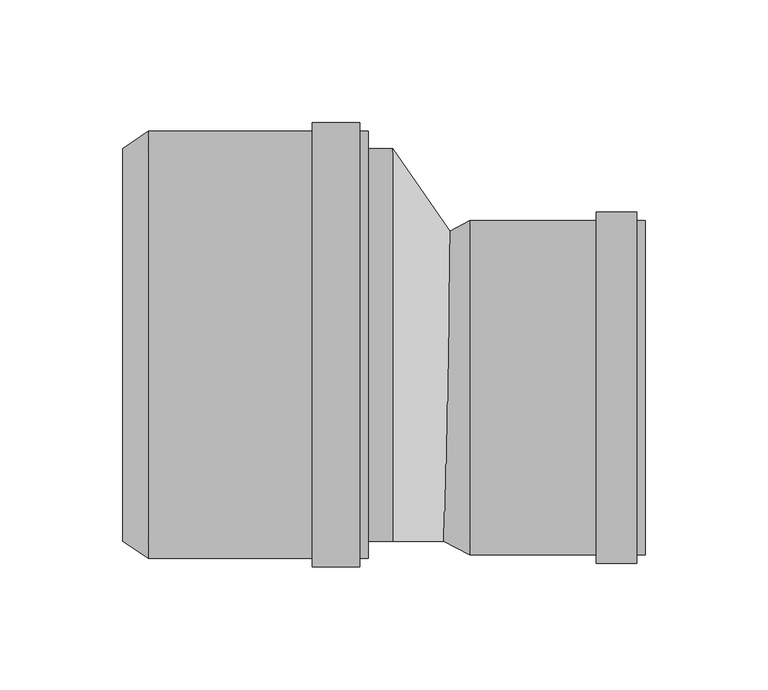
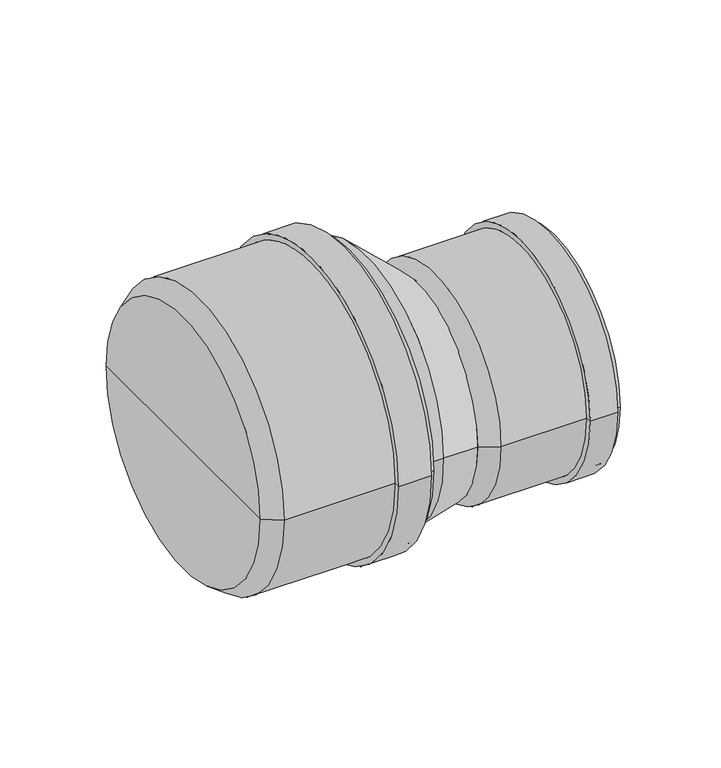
"""IFC4 building model written with IfcOpenShell, lengths in millimetres: pipe fitting geometry, pf_HTR_red-nes-dlouha : pf_HTR_red-nes-dlouha."""

from ifc_helpers import new_model, si_unit, point, frame, origin, origin_2d, place, context, project, spatial, polyline, circle_curve, trimmed, segment, composite_curve, outline, extrude, source, transform, mapped, element, save
from ifc_brep_helpers import plane_surface, cylinder_surface, revolved_surface, spline_surface, advanced_brep


def pipe_fitting_d7963361(model_context):
    return source(origin(), model_context, "Body", "SolidModel", [
        advanced_brep(
        [(-110.0, -80.0, 0.0), (-110.0, 80.0, 0.0), (-99.7, 87.1, 0.0), (-99.7, -87.1, 0.0), (-110.0, 0.0, 0.0), (-10.0, -87.1, 0.0), (-10.0, 87.1, 0.0), (-10.0, 0.0, 0.0), (-13.4, -87.1, 0.0), (-13.4, 87.1, 0.0), (-13.4, -90.5, 0.0), (-13.4, 90.5, 0.0), (-32.9, -90.5, 0.0), (-32.9, 90.5, 0.0), (-32.9, -87.1, 0.0), (-32.9, 87.1, 0.0)],
        [
            (0, 1, circle_curve(frame((-110.0, 0.0, 0.0), z_axis=(1.0, 0.0, 0.0), x_axis=(0.0, 1.0, 0.0)), 80.0)),
            (1, 2),
            (2, 3, circle_curve(frame((-99.7, 0.0, 0.0), z_axis=(-1.0, 0.0, 0.0), x_axis=(0.0, 1.0, 0.0)), 87.1)),
            (3, 0),
            (1, 0, circle_curve(frame((-110.0, 0.0, 0.0), z_axis=(1.0, 0.0, 0.0), x_axis=(0.0, 1.0, 0.0)), 80.0)),
            (3, 2, circle_curve(frame((-99.7, 0.0, 0.0), z_axis=(-1.0, 0.0, 0.0), x_axis=(0.0, 1.0, 0.0)), 87.1)),
            (4, 1),
            (0, 4),
            (5, 6, circle_curve(frame((-10.0, 0.0, 0.0), z_axis=(1.0, 0.0, 0.0), x_axis=(0.0, 1.0, 0.0)), 87.1)),
            (6, 7),
            (7, 5),
            (6, 5, circle_curve(frame((-10.0, 0.0, 0.0), z_axis=(1.0, 0.0, 0.0), x_axis=(0.0, 1.0, 0.0)), 87.1)),
            (8, 9, circle_curve(frame((-13.4, 0.0, 0.0), z_axis=(1.0, 0.0, 0.0), x_axis=(0.0, 1.0, 0.0)), 87.1)),
            (9, 6),
            (5, 8),
            (9, 8, circle_curve(frame((-13.4, 0.0, 0.0), z_axis=(1.0, 0.0, 0.0), x_axis=(0.0, 1.0, 0.0)), 87.1)),
            (10, 11, circle_curve(frame((-13.4, 0.0, 0.0), z_axis=(1.0, 0.0, 0.0), x_axis=(0.0, 1.0, 0.0)), 90.5)),
            (11, 9),
            (8, 10),
            (11, 10, circle_curve(frame((-13.4, 0.0, 0.0), z_axis=(1.0, 0.0, 0.0), x_axis=(0.0, 1.0, 0.0)), 90.5)),
            (12, 13, circle_curve(frame((-32.9, 0.0, 0.0), z_axis=(1.0, 0.0, 0.0), x_axis=(0.0, 1.0, 0.0)), 90.5)),
            (13, 11),
            (10, 12),
            (13, 12, circle_curve(frame((-32.9, 0.0, 0.0), z_axis=(1.0, 0.0, 0.0), x_axis=(0.0, 1.0, 0.0)), 90.5)),
            (14, 15, circle_curve(frame((-32.9, 0.0, 0.0), z_axis=(1.0, 0.0, 0.0), x_axis=(0.0, 1.0, 0.0)), 87.1)),
            (15, 13),
            (12, 14),
            (15, 14, circle_curve(frame((-32.9, 0.0, 0.0), z_axis=(1.0, 0.0, 0.0), x_axis=(0.0, 1.0, 0.0)), 87.1)),
            (2, 15),
            (14, 3),
        ],
        [
            revolved_surface(polyline([(-99.7, 87.1, 0.0), (-110.0, 80.0, 0.0)]), (-110.0, 0.0, 0.0), (-1.0, 0.0, 0.0)),
            plane_surface(frame((-110.0, 0.0, 0.0), z_axis=(-1.0, 0.0, 0.0), x_axis=(0.0, 1.0, 0.0))),
            plane_surface(frame((-10.0, 0.0, 0.0), z_axis=(1.0, 0.0, 0.0), x_axis=(0.0, 1.0, 0.0))),
            cylinder_surface(frame((-110.0, 0.0, 0.0), z_axis=(-1.0, 0.0, 0.0), x_axis=(0.0, 1.0, 0.0)), 87.1),
            plane_surface(frame((-13.4, 0.0, 0.0), z_axis=(1.0, 0.0, 0.0), x_axis=(0.0, 1.0, 0.0))),
            cylinder_surface(frame((-110.0, 0.0, 0.0), z_axis=(-1.0, 0.0, 0.0), x_axis=(0.0, 1.0, 0.0)), 90.5),
            plane_surface(frame((-32.9, 0.0, 0.0), z_axis=(-1.0, 0.0, 0.0), x_axis=(0.0, 1.0, 0.0))),
        ],
        [
            (0, [[1, 2, 3, 4]]),
            (0, [[5, -4, 6, -2]]),
            (1, [[7, -1, 8]]),
            (1, [[-8, -5, -7]]),
            (2, [[9, 10, 11]]),
            (2, [[12, -11, -10]]),
            (3, [[13, 14, -9, 15]]),
            (3, [[16, -15, -12, -14]]),
            (4, [[17, 18, -13, 19]]),
            (4, [[20, -19, -16, -18]]),
            (5, [[21, 22, -17, 23]]),
            (5, [[24, -23, -20, -22]]),
            (6, [[25, 26, -21, 27]]),
            (6, [[28, -27, -24, -26]]),
            (3, [[-3, 29, -25, 30]]),
            (3, [[-6, -30, -28, -29]]),
        ],
    ),
        advanced_brep(
        [(20.75, -80.0, 0.0), (20.75, 45.0, 0.0), (31.25, 50.6, 0.0), (31.25, -85.6, 0.0), (20.75, -17.5, 0.0), (102.75, -85.6, 0.0), (102.75, 50.6, 0.0), (102.75, -17.5, 0.0), (99.35, -85.6, 0.0), (99.35, 50.6, 0.0), (99.35, -89.0, 0.0), (99.35, 54.0, 0.0), (82.75, -89.0, 0.0), (82.75, 54.0, 0.0), (82.75, -85.6, 0.0), (82.75, 50.6, 0.0)],
        [
            (0, 1, circle_curve(frame((20.75, -17.5, 0.0), z_axis=(1.0, 0.0, 0.0), x_axis=(0.0, 1.0, 0.0)), 62.5)),
            (1, 2),
            (2, 3, circle_curve(frame((31.25, -17.5, 0.0), z_axis=(-1.0, 0.0, 0.0), x_axis=(0.0, 1.0, 0.0)), 68.1)),
            (3, 0),
            (1, 0, circle_curve(frame((20.75, -17.5, 0.0), z_axis=(1.0, 0.0, 0.0), x_axis=(0.0, 1.0, 0.0)), 62.5)),
            (3, 2, circle_curve(frame((31.25, -17.5, 0.0), z_axis=(-1.0, 0.0, 0.0), x_axis=(0.0, 1.0, 0.0)), 68.1)),
            (4, 1),
            (0, 4),
            (5, 6, circle_curve(frame((102.75, -17.5, 0.0), z_axis=(1.0, 0.0, 0.0), x_axis=(0.0, 1.0, 0.0)), 68.1)),
            (6, 7),
            (7, 5),
            (6, 5, circle_curve(frame((102.75, -17.5, 0.0), z_axis=(1.0, 0.0, 0.0), x_axis=(0.0, 1.0, 0.0)), 68.1)),
            (8, 9, circle_curve(frame((99.35, -17.5, 0.0), z_axis=(1.0, 0.0, 0.0), x_axis=(0.0, 1.0, 0.0)), 68.1)),
            (9, 6),
            (5, 8),
            (9, 8, circle_curve(frame((99.35, -17.5, 0.0), z_axis=(1.0, 0.0, 0.0), x_axis=(0.0, 1.0, 0.0)), 68.1)),
            (10, 11, circle_curve(frame((99.35, -17.5, 0.0), z_axis=(1.0, 0.0, 0.0), x_axis=(0.0, 1.0, 0.0)), 71.5)),
            (11, 9),
            (8, 10),
            (11, 10, circle_curve(frame((99.35, -17.5, 0.0), z_axis=(1.0, 0.0, 0.0), x_axis=(0.0, 1.0, 0.0)), 71.5)),
            (12, 13, circle_curve(frame((82.75, -17.5, 0.0), z_axis=(1.0, 0.0, 0.0), x_axis=(0.0, 1.0, 0.0)), 71.5)),
            (13, 11),
            (10, 12),
            (13, 12, circle_curve(frame((82.75, -17.5, 0.0), z_axis=(1.0, 0.0, 0.0), x_axis=(0.0, 1.0, 0.0)), 71.5)),
            (14, 15, circle_curve(frame((82.75, -17.5, 0.0), z_axis=(1.0, 0.0, 0.0), x_axis=(0.0, 1.0, 0.0)), 68.1)),
            (15, 13),
            (12, 14),
            (15, 14, circle_curve(frame((82.75, -17.5, 0.0), z_axis=(1.0, 0.0, 0.0), x_axis=(0.0, 1.0, 0.0)), 68.1)),
            (2, 15),
            (14, 3),
        ],
        [
            revolved_surface(polyline([(31.25, 50.6, 0.0), (20.75, 45.0, 0.0)]), (20.75, -17.5, 0.0), (-1.0, 0.0, 0.0)),
            plane_surface(frame((20.75, -17.5, 0.0), z_axis=(-1.0, 0.0, 0.0), x_axis=(0.0, 1.0, 0.0))),
            plane_surface(frame((102.75, -17.5, 0.0), z_axis=(1.0, 0.0, 0.0), x_axis=(0.0, 1.0, 0.0))),
            cylinder_surface(frame((20.75, -17.5, 0.0), z_axis=(-1.0, 0.0, 0.0), x_axis=(0.0, 1.0, 0.0)), 68.1),
            plane_surface(frame((99.35, -17.5, 0.0), z_axis=(1.0, 0.0, 0.0), x_axis=(0.0, 1.0, 0.0))),
            cylinder_surface(frame((20.75, -17.5, 0.0), z_axis=(-1.0, 0.0, 0.0), x_axis=(0.0, 1.0, 0.0)), 71.5),
            plane_surface(frame((82.75, -17.5, 0.0), z_axis=(-1.0, 0.0, 0.0), x_axis=(0.0, 1.0, 0.0))),
        ],
        [
            (0, [[1, 2, 3, 4]]),
            (0, [[5, -4, 6, -2]]),
            (1, [[7, -1, 8]]),
            (1, [[-8, -5, -7]]),
            (2, [[9, 10, 11]]),
            (2, [[12, -11, -10]]),
            (3, [[13, 14, -9, 15]]),
            (3, [[16, -15, -12, -14]]),
            (4, [[17, 18, -13, 19]]),
            (4, [[20, -19, -16, -18]]),
            (5, [[21, 22, -17, 23]]),
            (5, [[24, -23, -20, -22]]),
            (6, [[25, 26, -21, 27]]),
            (6, [[28, -27, -24, -26]]),
            (3, [[-3, 29, -25, 30]]),
            (3, [[-6, -30, -28, -29]]),
        ],
    ),
        extrude(outline(composite_curve([segment(trimmed(circle_curve(origin_2d(), 80.0), [point((-80.0, 0.0))], [point((80.0, 0.0))], False, "CARTESIAN"), True, "CONTINUOUS"), segment(trimmed(circle_curve(origin_2d(), 80.0), [point((80.0, 0.0))], [point((-80.0, 0.0))], False, "CARTESIAN"), True, "CONTINUOUS")], self_intersect=False)), frame((-10.0, 0.0, 0.0), z_axis=(1.0, 0.0, 0.0), x_axis=(0.0, 1.0, 0.0)), (0.0, 0.0, 1.0), 10.0),
        advanced_brep(
        [(24.25, -80.0, 0.0), (24.25, 45.0, 0.0), (0.0, -80.0, 0.0), (0.0, 80.0, 0.0)],
        [
            (0, 1, circle_curve(frame((24.25, -17.5, 0.0), z_axis=(1.0, 0.0, 0.0), x_axis=(0.0, 1.0, 0.0)), 62.5)),
            (1, 0, circle_curve(frame((24.25, -17.5, 0.0), z_axis=(1.0, 0.0, 0.0), x_axis=(0.0, 1.0, 0.0)), 62.5)),
            (2, 3, circle_curve(frame((0.0, 0.0, 0.0), z_axis=(-1.0, 0.0, 0.0), x_axis=(0.0, 1.0, 0.0)), 80.0)),
            (3, 2, circle_curve(frame((0.0, 0.0, 0.0), z_axis=(-1.0, 0.0, 0.0), x_axis=(0.0, 1.0, 0.0)), 80.0)),
            (3, 1),
            (0, 2),
        ],
        [
            plane_surface(frame((24.25, -17.5, 0.0), z_axis=(1.0, 0.0, 0.0), x_axis=(0.0, 0.0, -1.0))),
            plane_surface(frame((0.0, 0.0, 0.0), z_axis=(-1.0, 0.0, 0.0), x_axis=(0.0, 0.0, -1.0))),
            spline_surface(2, 1, [[(0.0, -80.0, 0.0), (24.25, -80.0, 0.0)], [(0.0, -80.0, -80.0), (24.25, -80.0, -62.5)], [(0.0, 0.0, -80.0), (24.25, -17.5, -62.5)], [(0.0, 80.0, -80.0), (24.25, 45.0, -62.5)], [(0.0, 80.0, 0.0), (24.25, 45.0, 0.0)]], [3, 2, 3], [2, 2], [0.0, 1.0, 2.0], [0.0, 1.0], weights=[[1.0, 1.0], [0.7071067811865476, 0.7071067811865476], [1.0, 1.0], [0.7071067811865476, 0.7071067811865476], [1.0, 1.0]]),
            spline_surface(2, 1, [[(0.0, 80.0, 0.0), (24.25, 45.0, 0.0)], [(0.0, 80.0, 80.0), (24.25, 45.0, 62.5)], [(0.0, 0.0, 80.0), (24.25, -17.5, 62.5)], [(0.0, -80.0, 80.0), (24.25, -80.0, 62.5)], [(0.0, -80.0, 0.0), (24.25, -80.0, 0.0)]], [3, 2, 3], [2, 2], [0.0, 1.0, 2.0], [0.0, 1.0], weights=[[1.0, 1.0], [0.7071067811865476, 0.7071067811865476], [1.0, 1.0], [0.7071067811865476, 0.7071067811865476], [1.0, 1.0]]),
        ],
        [
            (0, [[1, 2]]),
            (1, [[3, 4]]),
            (2, [[-4, 5, -1, 6]]),
            (3, [[-3, -6, -2, -5]]),
        ],
    ),
    ])


if __name__ == "__main__":
    model = new_model("IFC4")
    model_context = context("Model", 3, world=origin())
    ifc_project = project(units=[si_unit("LENGTHUNIT", "METRE", prefix="MILLI")], contexts=[model_context])
    site = spatial("IfcSite", under=ifc_project)
    building = spatial("IfcBuilding", under=site)
    placement = place(None, origin())
    pipe_fitting_shape = pipe_fitting_d7963361(model_context)
    element("IfcPipeFitting", 1, ObjectType="pf_HTR_red-nes-dlouha : pf_HTR_red-nes-dlouha", at=placement, inside=building, context=model_context, shape_type="MappedRepresentation", body=[
        mapped(pipe_fitting_shape, transform((0.0, 0.0, 0.0), x_axis=(1.0, 0.0, 0.0), y_axis=(0.0, 1.0, 0.0), z_axis=(0.0, 0.0, 1.0))),
    ])
    save(model, "model.ifc")
